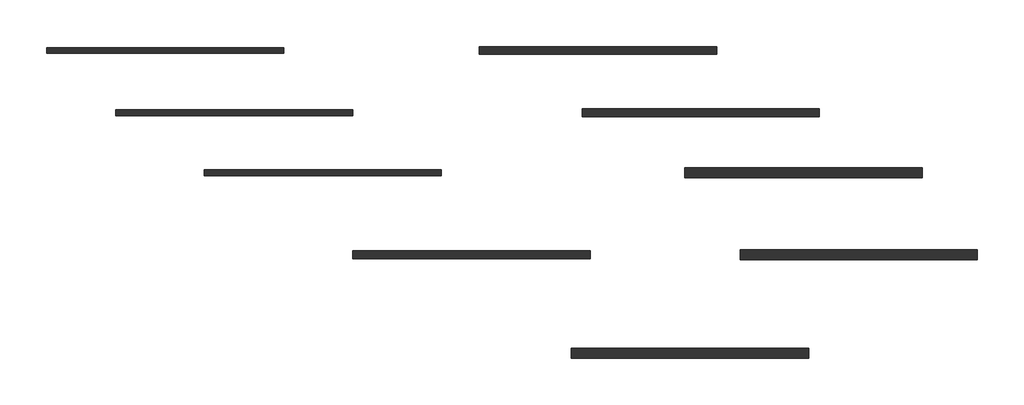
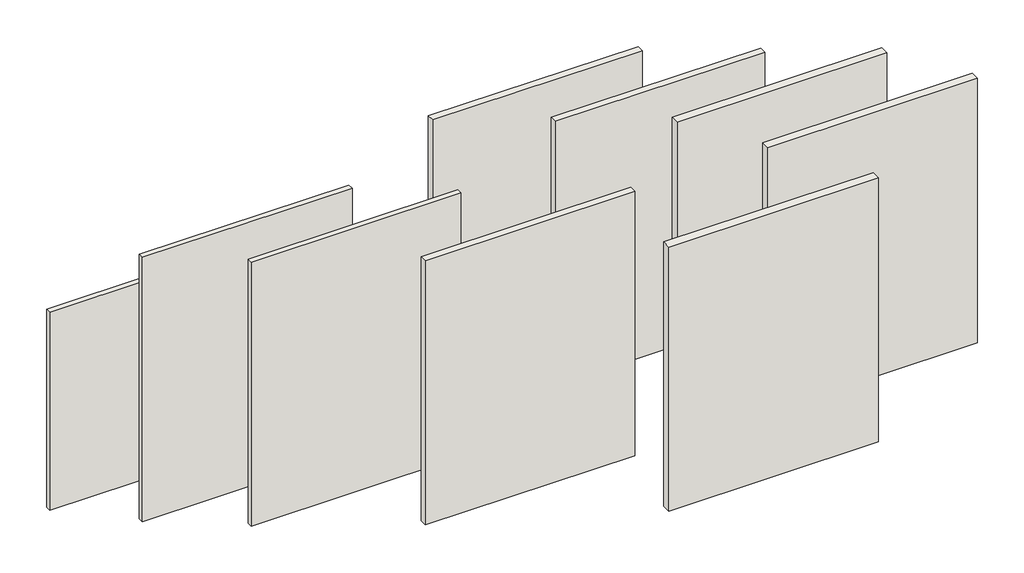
# One storey: 9 walls.
"""IFC4 building model written with IfcOpenShell, lengths in millimetres."""

from ifc_helpers import new_model, si_unit, origin, origin_with_axes, place, context, project, spatial, polyline, outline, extrude, element, save

model = new_model("IFC4")

# Units and contexts
model_context = context("Model", 3, world=origin())
ifc_project = project(units=[si_unit("LENGTHUNIT", "METRE", prefix="MILLI")], contexts=[model_context])

# Site, building, storey
site = spatial("IfcSite", under=ifc_project)
building = spatial("IfcBuilding", under=site)
storey = spatial("IfcBuildingStorey", under=building, Name="Уровень 1", Elevation=0.0)

# Walls
placement = place(None, origin())
element("IfcWall", 1, ObjectType="Облицовка КНАУФ С626 Применение внутри здания ПС50х50 ПН50х40 шаг 300 ГСП-А 12.5", at=placement, inside=storey, context=model_context, shape_type="SweptSolid", body=[
    extrude(outline(polyline([(1124.5375396, 1119.5875444), (-1875.4624604, 1119.5875444), (-1875.4624604, 1194.5875444), (1124.5375396, 1194.5875444), (1124.5375396, 1119.5875444)])), origin_with_axes(), (0.0, 0.0, 1.0), 3000.0),
])
element("IfcWall", 2, ObjectType="Облицовка КНАУФ С626 Применение внутри здания ПС50х50 ПН50х40 шаг 400 ГСП-А 12.5", at=placement, inside=storey, context=model_context, shape_type="SweptSolid", body=[
    extrude(outline(polyline([(1998.9863889, 331.9161412), (-1001.0136111, 331.9161412), (-1001.0136111, 406.9161412), (1998.9863889, 406.9161412), (1998.9863889, 331.9161412)])), origin_with_axes(), (0.0, 0.0, 1.0), 4000.0),
])
element("IfcWall", 3, ObjectType="Облицовка КНАУФ С626 Применение внутри здания ПС50х50 ПН50х40 шаг 600 ГСП-А 12.5", at=placement, inside=storey, context=model_context, shape_type="SweptSolid", body=[
    extrude(outline(polyline([(3116.0885435, -428.6640492), (116.0885435, -428.6640492), (116.0885435, -353.6640492), (3116.0885435, -353.6640492), (3116.0885435, -428.6640492)])), origin_with_axes(), (0.0, 0.0, 1.0), 4000.0),
])
element("IfcWall", 4, ObjectType="Облицовка КНАУФ С626 Применение внутри здания ПС75х50 ПН75х40 шаг 300 ГСП-А 12.5", at=placement, inside=storey, context=model_context, shape_type="SweptSolid", body=[
    extrude(outline(polyline([(4998.9863889, -1478.6640492), (1998.9863889, -1478.6640492), (1998.9863889, -1378.6640492), (4998.9863889, -1378.6640492), (4998.9863889, -1478.6640492)])), origin_with_axes(), (0.0, 0.0, 1.0), 4000.0),
])
element("IfcWall", 5, ObjectType="Облицовка КНАУФ С626 Применение внутри здания ПС75х50 ПН75х40 шаг 400 ГСП-А 12.5", at=placement, inside=storey, context=model_context, shape_type="SweptSolid", body=[
    extrude(outline(polyline([(6598.9863889, 1107.0875444), (3598.9863889, 1107.0875444), (3598.9863889, 1207.0875444), (6598.9863889, 1207.0875444), (6598.9863889, 1107.0875444)])), origin_with_axes(), (0.0, 0.0, 1.0), 4000.0),
])
element("IfcWall", 6, ObjectType="Облицовка КНАУФ С626 Применение внутри здания ПС75х50 ПН75х40 шаг 600 ГСП-А 12.5", at=placement, inside=storey, context=model_context, shape_type="SweptSolid", body=[
    extrude(outline(polyline([(7898.9863889, 319.4161412), (4898.9863889, 319.4161412), (4898.9863889, 419.4161412), (7898.9863889, 419.4161412), (7898.9863889, 319.4161412)])), origin_with_axes(), (0.0, 0.0, 1.0), 4000.0),
])
element("IfcWall", 7, ObjectType="Облицовка КНАУФ С626 Применение внутри здания ПС100х50 ПН100х40 шаг 300 ГСП-А 12.5", at=placement, inside=storey, context=model_context, shape_type="SweptSolid", body=[
    extrude(outline(polyline([(9198.9863889, -453.6640492), (6198.9863889, -453.6640492), (6198.9863889, -328.6640492), (9198.9863889, -328.6640492), (9198.9863889, -453.6640492)])), origin_with_axes(), (0.0, 0.0, 1.0), 4000.0),
])
element("IfcWall", 8, ObjectType="Облицовка КНАУФ С626 Применение внутри здания ПС100х50 ПН100х40 шаг 400 ГСП-А 12.5", at=placement, inside=storey, context=model_context, shape_type="SweptSolid", body=[
    extrude(outline(polyline([(9898.9863889, -1491.1640492), (6898.9863889, -1491.1640492), (6898.9863889, -1366.1640492), (9898.9863889, -1366.1640492), (9898.9863889, -1491.1640492)])), origin_with_axes(), (0.0, 0.0, 1.0), 4000.0),
])
element("IfcWall", 9, ObjectType="Облицовка КНАУФ С626 Применение внутри здания ПС100х50 ПН100х40 шаг 600 ГСП-А 12.5", at=placement, inside=storey, context=model_context, shape_type="SweptSolid", body=[
    extrude(outline(polyline([(7762.7581442, -2735.4046204), (4762.7581442, -2735.4046204), (4762.7581442, -2610.4046204), (7762.7581442, -2610.4046204), (7762.7581442, -2735.4046204)])), origin_with_axes(), (0.0, 0.0, 1.0), 4000.0),
])

save(model, "model.ifc")
